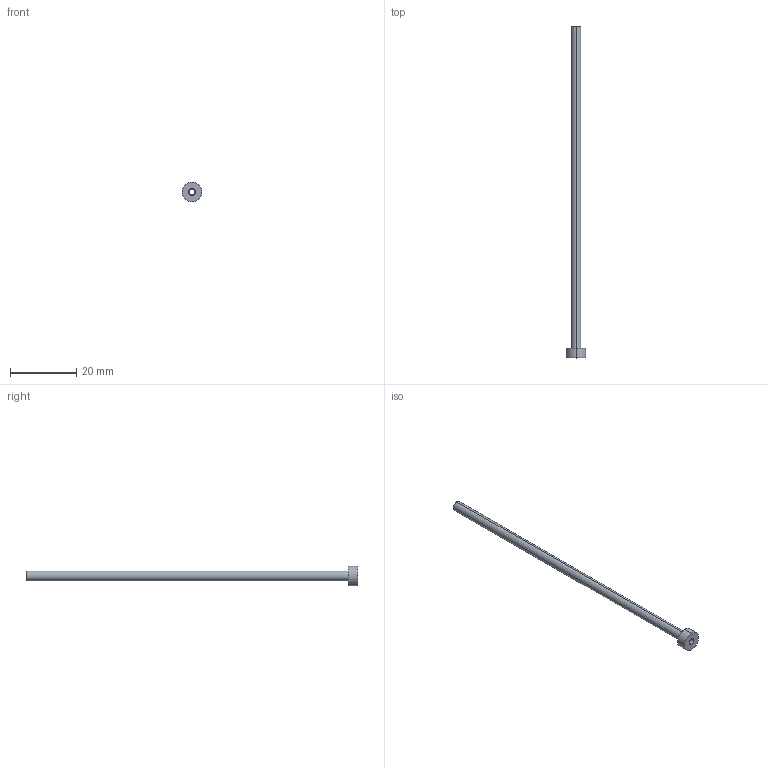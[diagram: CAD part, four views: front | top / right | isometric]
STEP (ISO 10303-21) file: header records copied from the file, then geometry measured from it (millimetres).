
FILE_DESCRIPTION (( 'STEP AP214' ), '1' );
FILE_NAME ('ET-ETN-1,6x100.STEP', '2019-12-16T14:38:41', ( 'August' ), ( '' ), 'SwSTEP 2.0', 'SolidWorks 2018', '' );
FILE_SCHEMA (( 'AUTOMOTIVE_DESIGN' ));
Length unit declared in the file: millimetre
Products named in the file (1): ET-ETN-1,6x100
Bounding box: 6 x 100 x 6 mm (x, y, z)
Volume: 496 mm3; surface area: 1606.8 mm2
Topology: 1 solids, 1 shells, 13 faces, 26 edges, 16 vertices
Faces by surface type: cylinder 8, plane 3, cone 2
Entity records: 382 total; most frequent: DIRECTION 70, CARTESIAN_POINT 56, ORIENTED_EDGE 52, AXIS2_PLACEMENT_3D 30, EDGE_CURVE 26, EDGE_LOOP 16, CIRCLE 16, VERTEX_POINT 16
